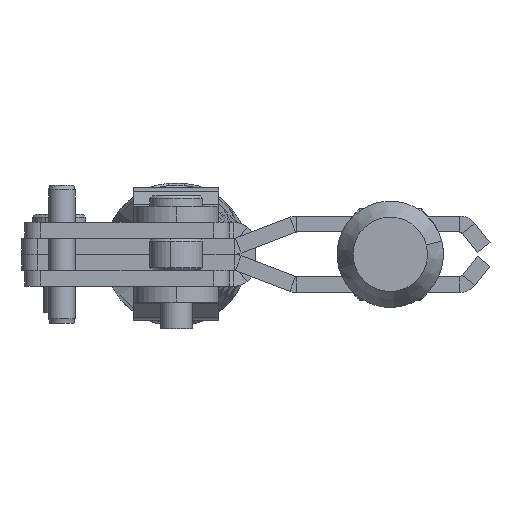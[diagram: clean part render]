
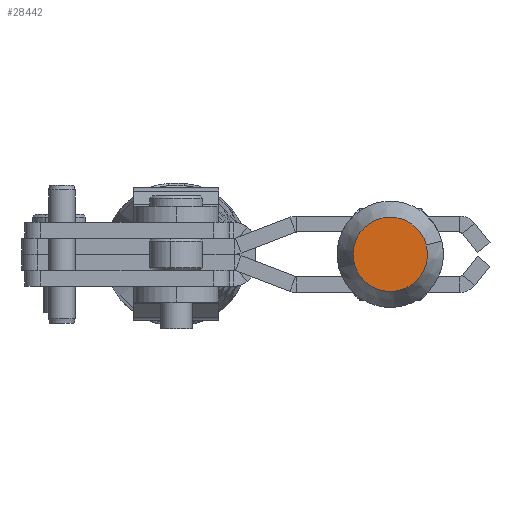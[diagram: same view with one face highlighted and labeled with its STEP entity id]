
A CAD part, front view. The second image highlights one B-rep face of the part: STEP entity #28442.
In plain terms, the highlighted planar face has unit normal (0, -1, 0).
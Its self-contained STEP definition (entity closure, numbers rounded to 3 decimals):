
#114 = ORIENTED_EDGE ( 'NONE', *, *, #28259, .F. ) ;
#1503 = AXIS2_PLACEMENT_3D ( 'NONE', #22163, #4510, #29063 ) ;
#1664 = DIRECTION ( 'NONE',  ( 0., 0., -1. ) ) ;
#2195 = EDGE_LOOP ( 'NONE', ( #13881, #114 ) ) ;
#4075 = PLANE ( 'NONE',  #16010 ) ;
#4510 = DIRECTION ( 'NONE',  ( 0., 1., 0. ) ) ;
#5099 = CIRCLE ( 'NONE', #1503, 7. ) ;
#5704 = DIRECTION ( 'NONE',  ( 0., 1., 0. ) ) ;
#8179 = CARTESIAN_POINT ( 'NONE',  ( -7., 0., 0. ) ) ;
#10594 = EDGE_CURVE ( 'NONE', #13348, #16101, #5099, .T. ) ;
#10885 = AXIS2_PLACEMENT_3D ( 'NONE', #27675, #5704, #30254 ) ;
#12421 = CIRCLE ( 'NONE', #10885, 7. ) ;
#13348 = VERTEX_POINT ( 'NONE', #8179 ) ;
#13863 = CARTESIAN_POINT ( 'NONE',  ( -7., 0., 0. ) ) ;
#13881 = ORIENTED_EDGE ( 'NONE', *, *, #10594, .F. ) ;
#16010 = AXIS2_PLACEMENT_3D ( 'NONE', #13863, #23647, #1664 ) ;
#16101 = VERTEX_POINT ( 'NONE', #20846 ) ;
#20846 = CARTESIAN_POINT ( 'NONE',  ( 7., 0., 0. ) ) ;
#22163 = CARTESIAN_POINT ( 'NONE',  ( 0., 0., 0. ) ) ;
#23647 = DIRECTION ( 'NONE',  ( 0., -1., 0. ) ) ;
#26040 = FACE_OUTER_BOUND ( 'NONE', #2195, .T. ) ;
#27675 = CARTESIAN_POINT ( 'NONE',  ( 0., 0., 0. ) ) ;
#28259 = EDGE_CURVE ( 'NONE', #16101, #13348, #12421, .T. ) ;
#28442 = ADVANCED_FACE ( 'NONE', ( #26040 ), #4075, .T. ) ;
#29063 = DIRECTION ( 'NONE',  ( -1., 0., 0. ) ) ;
#30254 = DIRECTION ( 'NONE',  ( -1., 0., 0. ) ) ;
